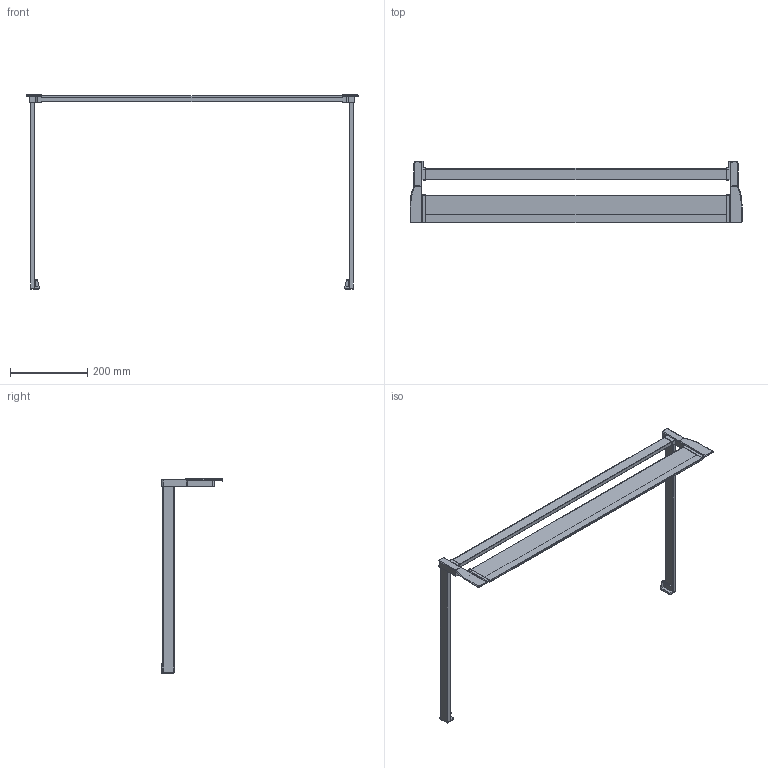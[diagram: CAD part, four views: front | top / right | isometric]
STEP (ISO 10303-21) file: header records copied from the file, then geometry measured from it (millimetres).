
FILE_DESCRIPTION (( 'STEP AP214' ), '1' );
FILE_NAME ('1_P620_NL 500_KAB 900_16er KS_.step', '2009-09-16T06:29:49', ( 'Waldinger Reinhard' ), ( 'Grass GmbH' ), 'SwSTEP 2.0', 'SolidWorks 2009', '' );
FILE_SCHEMA (( 'AUTOMOTIVE_DESIGN' ));
Length unit declared in the file: millimetre
Products named in the file (1): 1_P620_NL 500_KAB 900_16er KS_
Bounding box: 859.6 x 160.5 x 502.8 mm (x, y, z)
Volume: 1336603.8 mm3; surface area: 312366.8 mm2
Topology: 1 solids, 1 shells, 218 faces, 576 edges, 364 vertices
Faces by surface type: plane 97, cylinder 89, torus 28, sphere 2, bspline 2
Entity records: 6974 total; most frequent: CARTESIAN_POINT 1341, DIRECTION 1192, ORIENTED_EDGE 1148, EDGE_CURVE 574, AXIS2_PLACEMENT_3D 431, VERTEX_POINT 364, VECTOR 330, LINE 330
